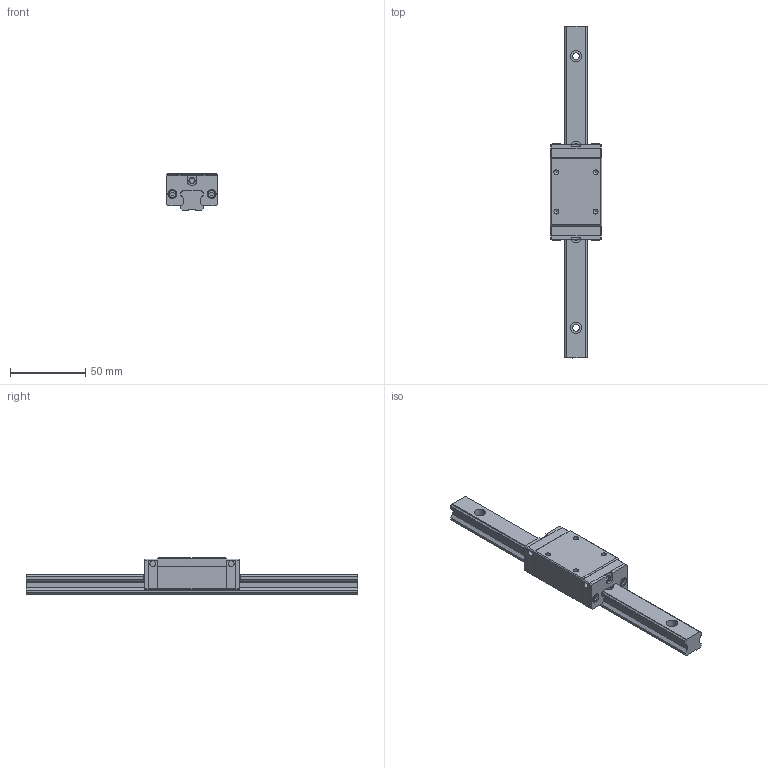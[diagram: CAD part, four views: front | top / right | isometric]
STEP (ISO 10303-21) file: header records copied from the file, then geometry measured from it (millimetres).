
FILE_DESCRIPTION( ( 'Unknown' ), '1' );
FILE_NAME( 'C:/Documents and Settings/c/官帕 拳搁/15/SBI 15 HL.stp', 'Unknown', ( 'Unknown' ), ( 'Unknown' ), 'XStep 1.0', 'Unknown', ' ' );
FILE_SCHEMA( ( 'automotive_design' ) );
Length unit declared in the file: millimetre
Products named in the file (7): Assem1; SBI-15HL BLOCK; RAIL
Bounding box: 34 x 220 x 24 mm (x, y, z)
Volume: 133584.2 mm3; surface area: 56414.2 mm2
Topology: 12 solids, 12 shells, 644 faces, 1714 edges, 1144 vertices
Faces by surface type: plane 510, cylinder 92, extrusion 26, cone 8, torus 8
Full cylindrical faces by diameter (mm): 3.242 x8, 3.4 x8, 3.5 x4, 3.818 x8, 4.1 x4, 4.5 x8, 5.5 x8, 6 x8, 7.5 x8
Entity records: 10484 total; most frequent: CARTESIAN_POINT 2127, ORIENTED_EDGE 1598, DIRECTION 1526, EDGE_CURVE 799, VECTOR 678, LINE 665, VERTEX_POINT 558, AXIS2_PLACEMENT_3D 424
